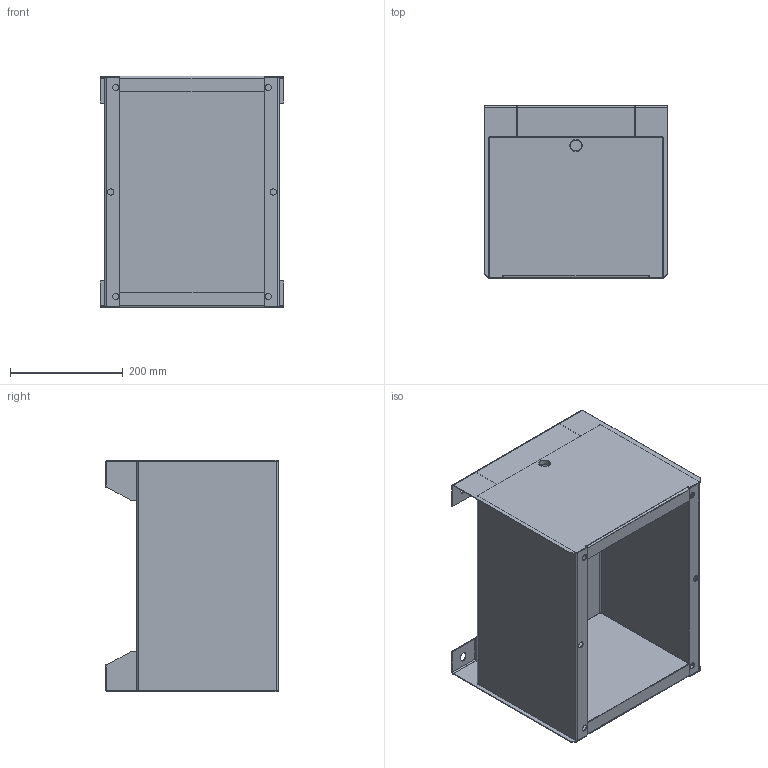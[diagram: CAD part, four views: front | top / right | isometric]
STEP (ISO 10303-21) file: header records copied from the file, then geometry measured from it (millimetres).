
FILE_DESCRIPTION(('STEP AP203'),'2;1');
FILE_NAME('CF16.stp','2009-06-15T14:32:29',(''),(''),'2008.1.107','THINKDESIGN','');
FILE_SCHEMA(('CONFIG_CONTROL_DESIGN'));
Length unit declared in the file: millimetre
Bounding box: 325 x 305 x 410 mm (x, y, z)
Volume: 905581.4 mm3; surface area: 1209371.4 mm2
Topology: 7 solids, 7 shells, 159 faces, 384 edges, 240 vertices
Faces by surface type: plane 81, bspline 42, cylinder 36
Full cylindrical faces by diameter (mm): 11.2 x6, 19 x1, 22 x1
Entity records: 5183 total; most frequent: CARTESIAN_POINT 1405, ORIENTED_EDGE 768, DIRECTION 706, EDGE_CURVE 384, VECTOR 296, LINE 296, VERTEX_POINT 240, AXIS2_PLACEMENT_3D 205
